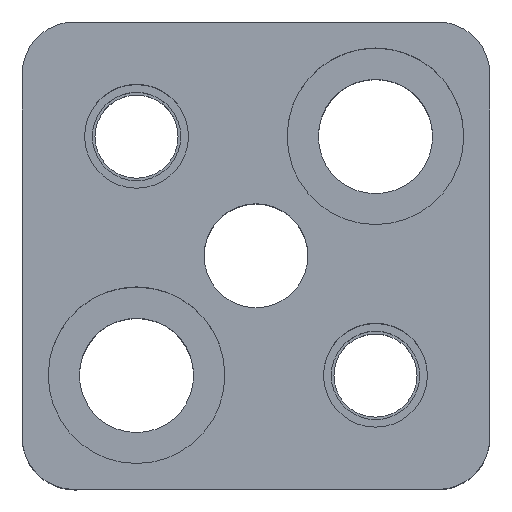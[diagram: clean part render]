
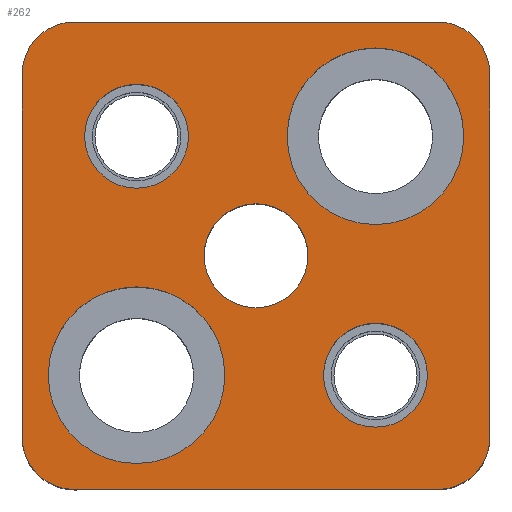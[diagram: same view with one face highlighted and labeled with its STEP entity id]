
A CAD part, top view. The second image highlights one B-rep face of the part: STEP entity #262.
In plain terms, the highlighted planar face has unit normal (0, 0, 1).
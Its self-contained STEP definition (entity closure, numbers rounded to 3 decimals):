
#111=FACE_BOUND('',#381,.T.);
#112=FACE_BOUND('',#382,.T.);
#113=FACE_BOUND('',#383,.T.);
#114=FACE_BOUND('',#384,.T.);
#115=FACE_BOUND('',#385,.T.);
#116=FACE_BOUND('',#386,.T.);
#162=CIRCLE('',#926,5.);
#164=CIRCLE('',#930,5.);
#166=CIRCLE('',#934,5.);
#168=CIRCLE('',#938,5.);
#181=CIRCLE('',#964,8.5);
#183=CIRCLE('',#967,8.5);
#185=CIRCLE('',#971,8.5);
#187=CIRCLE('',#974,8.5);
#209=CIRCLE('',#1011,5.);
#210=CIRCLE('',#1012,5.);
#211=CIRCLE('',#1013,5.);
#212=CIRCLE('',#1014,5.);
#213=CIRCLE('',#1015,5.);
#214=CIRCLE('',#1016,5.);
#262=ADVANCED_FACE('',(#111,#112,#113,#114,#115,#116),#287,.T.);
#287=PLANE('',#1017);
#381=EDGE_LOOP('',(#571,#572,#573,#574,#575,#576,#577,#578));
#382=EDGE_LOOP('',(#579,#580));
#383=EDGE_LOOP('',(#581,#582));
#384=EDGE_LOOP('',(#583,#584));
#385=EDGE_LOOP('',(#585,#586));
#386=EDGE_LOOP('',(#587,#588));
#571=ORIENTED_EDGE('',*,*,#724,.T.);
#572=ORIENTED_EDGE('',*,*,#721,.T.);
#573=ORIENTED_EDGE('',*,*,#718,.T.);
#574=ORIENTED_EDGE('',*,*,#715,.T.);
#575=ORIENTED_EDGE('',*,*,#712,.T.);
#576=ORIENTED_EDGE('',*,*,#709,.T.);
#577=ORIENTED_EDGE('',*,*,#730,.T.);
#578=ORIENTED_EDGE('',*,*,#727,.T.);
#579=ORIENTED_EDGE('',*,*,#801,.F.);
#580=ORIENTED_EDGE('',*,*,#802,.F.);
#581=ORIENTED_EDGE('',*,*,#803,.F.);
#582=ORIENTED_EDGE('',*,*,#804,.F.);
#583=ORIENTED_EDGE('',*,*,#769,.F.);
#584=ORIENTED_EDGE('',*,*,#765,.F.);
#585=ORIENTED_EDGE('',*,*,#763,.F.);
#586=ORIENTED_EDGE('',*,*,#759,.F.);
#587=ORIENTED_EDGE('',*,*,#805,.T.);
#588=ORIENTED_EDGE('',*,*,#806,.T.);
#635=VERTEX_POINT('',#1320);
#636=VERTEX_POINT('',#1322);
#638=VERTEX_POINT('',#1328);
#640=VERTEX_POINT('',#1334);
#642=VERTEX_POINT('',#1340);
#644=VERTEX_POINT('',#1346);
#646=VERTEX_POINT('',#1352);
#648=VERTEX_POINT('',#1358);
#665=VERTEX_POINT('',#1433);
#666=VERTEX_POINT('',#1434);
#669=VERTEX_POINT('',#1446);
#670=VERTEX_POINT('',#1447);
#693=VERTEX_POINT('',#1522);
#694=VERTEX_POINT('',#1523);
#695=VERTEX_POINT('',#1526);
#696=VERTEX_POINT('',#1527);
#697=VERTEX_POINT('',#1530);
#698=VERTEX_POINT('',#1531);
#709=EDGE_CURVE('',#636,#635,#825,.T.);
#712=EDGE_CURVE('',#638,#636,#162,.T.);
#715=EDGE_CURVE('',#640,#638,#829,.T.);
#718=EDGE_CURVE('',#642,#640,#164,.T.);
#721=EDGE_CURVE('',#644,#642,#833,.T.);
#724=EDGE_CURVE('',#646,#644,#166,.T.);
#727=EDGE_CURVE('',#648,#646,#837,.T.);
#730=EDGE_CURVE('',#635,#648,#168,.T.);
#759=EDGE_CURVE('',#665,#666,#181,.T.);
#763=EDGE_CURVE('',#666,#665,#183,.T.);
#765=EDGE_CURVE('',#669,#670,#185,.T.);
#769=EDGE_CURVE('',#670,#669,#187,.T.);
#801=EDGE_CURVE('',#693,#694,#209,.T.);
#802=EDGE_CURVE('',#694,#693,#210,.T.);
#803=EDGE_CURVE('',#695,#696,#211,.T.);
#804=EDGE_CURVE('',#696,#695,#212,.T.);
#805=EDGE_CURVE('',#697,#698,#213,.T.);
#806=EDGE_CURVE('',#698,#697,#214,.T.);
#825=LINE('',#1321,#875);
#829=LINE('',#1333,#879);
#833=LINE('',#1345,#883);
#837=LINE('',#1357,#887);
#875=VECTOR('',#1041,1.);
#879=VECTOR('',#1053,1.);
#883=VECTOR('',#1065,1.);
#887=VECTOR('',#1077,1.);
#926=AXIS2_PLACEMENT_3D('',#1327,#1047,#1048);
#930=AXIS2_PLACEMENT_3D('',#1339,#1059,#1060);
#934=AXIS2_PLACEMENT_3D('',#1351,#1071,#1072);
#938=AXIS2_PLACEMENT_3D('',#1362,#1083,#1084);
#964=AXIS2_PLACEMENT_3D('',#1432,#1147,#1148);
#967=AXIS2_PLACEMENT_3D('',#1441,#1155,#1156);
#971=AXIS2_PLACEMENT_3D('',#1445,#1163,#1164);
#974=AXIS2_PLACEMENT_3D('',#1454,#1171,#1172);
#1011=AXIS2_PLACEMENT_3D('',#1521,#1255,#1256);
#1012=AXIS2_PLACEMENT_3D('',#1524,#1257,#1258);
#1013=AXIS2_PLACEMENT_3D('',#1525,#1259,#1260);
#1014=AXIS2_PLACEMENT_3D('',#1528,#1261,#1262);
#1015=AXIS2_PLACEMENT_3D('',#1529,#1263,#1264);
#1016=AXIS2_PLACEMENT_3D('',#1532,#1265,#1266);
#1017=AXIS2_PLACEMENT_3D('',#1533,#1267,#1268);
#1041=DIRECTION('',(0.,-1.,0.));
#1047=DIRECTION('',(0.,0.,1.));
#1048=DIRECTION('',(0.707,-0.707,0.));
#1053=DIRECTION('',(-1.,0.,0.));
#1059=DIRECTION('',(0.,0.,1.));
#1060=DIRECTION('',(-0.707,-0.707,0.));
#1065=DIRECTION('',(0.,1.,0.));
#1071=DIRECTION('',(0.,0.,1.));
#1072=DIRECTION('',(-0.707,0.707,0.));
#1077=DIRECTION('',(1.,0.,0.));
#1083=DIRECTION('',(0.,0.,1.));
#1084=DIRECTION('',(0.707,0.707,0.));
#1147=DIRECTION('',(0.,0.,1.));
#1148=DIRECTION('',(-1.,0.,0.));
#1155=DIRECTION('',(0.,0.,1.));
#1156=DIRECTION('',(1.,0.,0.));
#1163=DIRECTION('',(0.,0.,1.));
#1164=DIRECTION('',(-1.,0.,0.));
#1171=DIRECTION('',(0.,0.,1.));
#1172=DIRECTION('',(1.,0.,0.));
#1255=DIRECTION('',(0.,0.,1.));
#1256=DIRECTION('',(1.,0.,0.));
#1257=DIRECTION('',(0.,0.,1.));
#1258=DIRECTION('',(-1.,0.,0.));
#1259=DIRECTION('',(0.,0.,1.));
#1260=DIRECTION('',(1.,0.,0.));
#1261=DIRECTION('',(0.,0.,1.));
#1262=DIRECTION('',(-1.,0.,0.));
#1263=DIRECTION('',(0.,0.,-1.));
#1264=DIRECTION('',(-1.,0.,0.));
#1265=DIRECTION('',(0.,0.,-1.));
#1266=DIRECTION('',(1.,0.,0.));
#1267=DIRECTION('',(0.,0.,1.));
#1268=DIRECTION('',(-1.,0.,0.));
#1320=CARTESIAN_POINT('',(-22.5,-17.5,30.));
#1321=CARTESIAN_POINT('',(-22.5,17.5,30.));
#1322=CARTESIAN_POINT('',(-22.5,17.5,30.));
#1327=CARTESIAN_POINT('',(-17.5,17.5,30.));
#1328=CARTESIAN_POINT('',(-17.5,22.5,30.));
#1333=CARTESIAN_POINT('',(-17.5,22.5,30.));
#1334=CARTESIAN_POINT('',(17.5,22.5,30.));
#1339=CARTESIAN_POINT('',(17.5,17.5,30.));
#1340=CARTESIAN_POINT('',(22.5,17.5,30.));
#1345=CARTESIAN_POINT('',(22.5,17.5,30.));
#1346=CARTESIAN_POINT('',(22.5,-17.5,30.));
#1351=CARTESIAN_POINT('',(17.5,-17.5,30.));
#1352=CARTESIAN_POINT('',(17.5,-22.5,30.));
#1357=CARTESIAN_POINT('',(-17.5,-22.5,30.));
#1358=CARTESIAN_POINT('',(-17.5,-22.5,30.));
#1362=CARTESIAN_POINT('',(-17.5,-17.5,30.));
#1432=CARTESIAN_POINT('',(-11.5,-11.5,30.));
#1433=CARTESIAN_POINT('',(-11.5,-20.,30.));
#1434=CARTESIAN_POINT('',(-11.5,-3.,30.));
#1441=CARTESIAN_POINT('',(-11.5,-11.5,30.));
#1445=CARTESIAN_POINT('',(11.5,11.5,30.));
#1446=CARTESIAN_POINT('',(11.5,3.,30.));
#1447=CARTESIAN_POINT('',(11.5,20.,30.));
#1454=CARTESIAN_POINT('',(11.5,11.5,30.));
#1521=CARTESIAN_POINT('',(-11.5,11.5,30.));
#1522=CARTESIAN_POINT('',(-11.5,16.5,30.));
#1523=CARTESIAN_POINT('',(-11.5,6.5,30.));
#1524=CARTESIAN_POINT('',(-11.5,11.5,30.));
#1525=CARTESIAN_POINT('',(11.5,-11.5,30.));
#1526=CARTESIAN_POINT('',(11.5,-6.5,30.));
#1527=CARTESIAN_POINT('',(11.5,-16.5,30.));
#1528=CARTESIAN_POINT('',(11.5,-11.5,30.));
#1529=CARTESIAN_POINT('',(0.,0.,30.));
#1530=CARTESIAN_POINT('',(0.,5.,30.));
#1531=CARTESIAN_POINT('',(0.,-5.,30.));
#1532=CARTESIAN_POINT('',(0.,0.,30.));
#1533=CARTESIAN_POINT('',(17.5,-22.5,30.));
